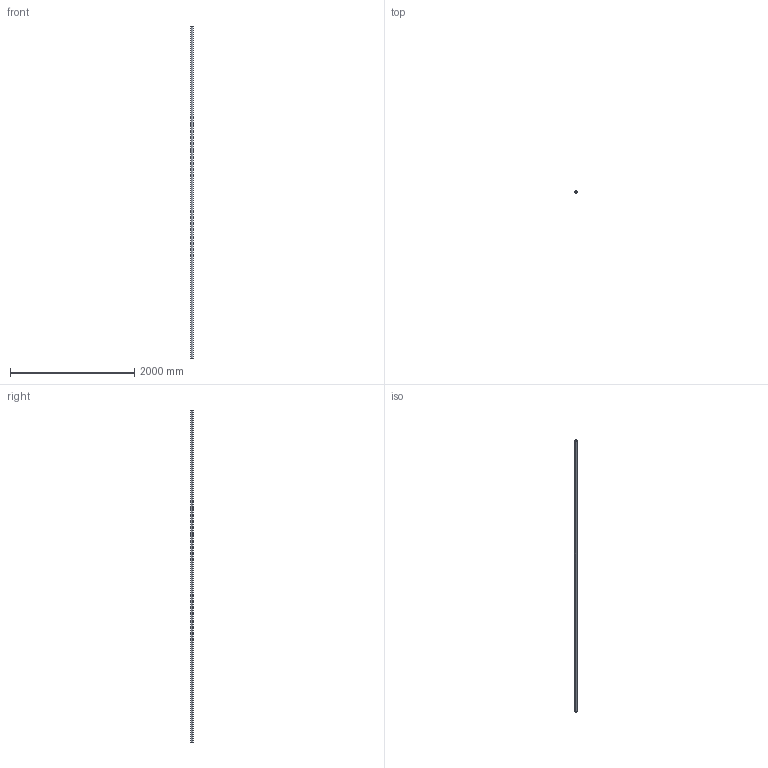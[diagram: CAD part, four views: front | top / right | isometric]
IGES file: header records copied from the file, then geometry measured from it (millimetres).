
Start section: SolidWorks IGES file using analytic representation for surfaces
Global section: file name: C:\Users\IanO\Desktop\L1771_v2\L1771.40_v2\L1771.40_v2_20230705_IGES\L1771.40-5350.igs; native system: SolidWorks 2019; preprocessor: SolidWorks 2019; author: IanO; date: 230705.163103; units: millimetre
Bounding box: 40 x 40 x 5350 mm (x, y, z)
Surface area: 1144193.2 mm2 (no closed solid volume)
Topology: 0 solids, 0 shells, 6 faces, 272 edges, 272 vertices
Faces by surface type: revolution 4, bspline 2
